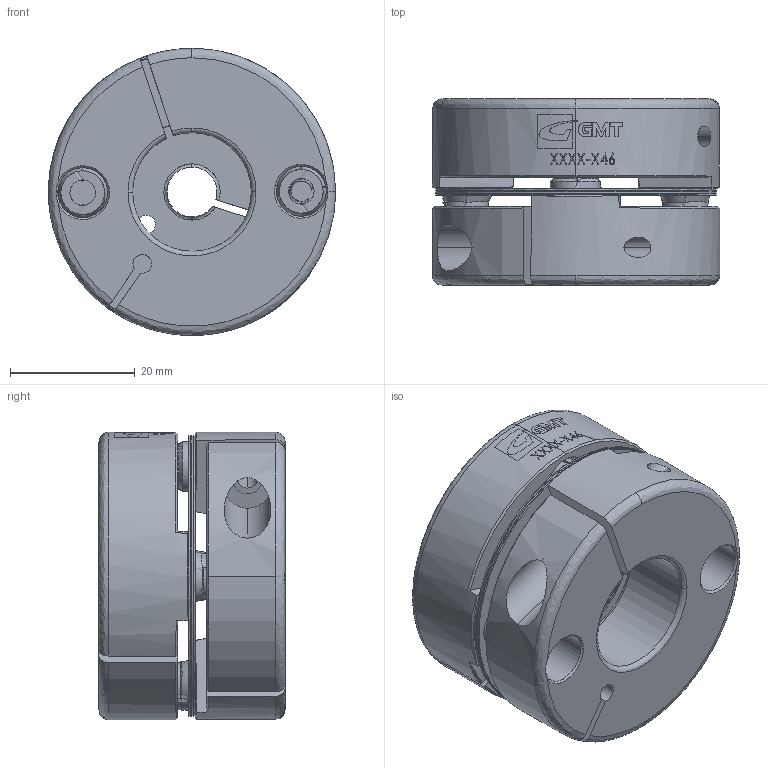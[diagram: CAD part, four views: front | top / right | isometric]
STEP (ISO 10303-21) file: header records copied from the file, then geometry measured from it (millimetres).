
FILE_DESCRIPTION (( 'STEP AP203' ), '1' );
FILE_NAME ('FACC-S46.STEP', '2008-04-06T02:16:05', ( '陳志豪' ), ( '高明鐵企業股份有限公司' ), 'SwSTEP 2.0', 'SolidWorks 2007', '' );
FILE_SCHEMA (( 'CONFIG_CONTROL_DESIGN' ));
Length unit declared in the file: millimetre
Products named in the file (1): FACC-S46
Bounding box: 46 x 29.8 x 46 mm (x, y, z)
Surface area: 18538.6 mm2 (no closed solid volume)
Topology: 0 solids, 13 shells, 212 faces, 729 edges, 531 vertices
Faces by surface type: cylinder 105, cone 53, plane 34, bspline 20
Entity records: 15104 total; most frequent: CARTESIAN_POINT 9373, ORIENTED_EDGE 1354, DIRECTION 867, EDGE_CURVE 729, VERTEX_POINT 531, B_SPLINE_CURVE_WITH_KNOTS 398, AXIS2_PLACEMENT_3D 354, EDGE_LOOP 261
